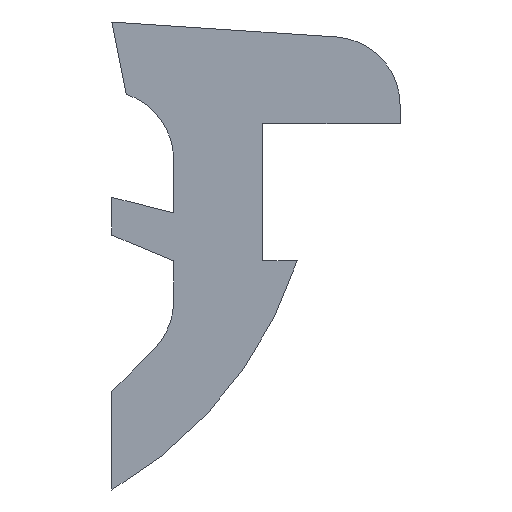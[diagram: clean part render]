
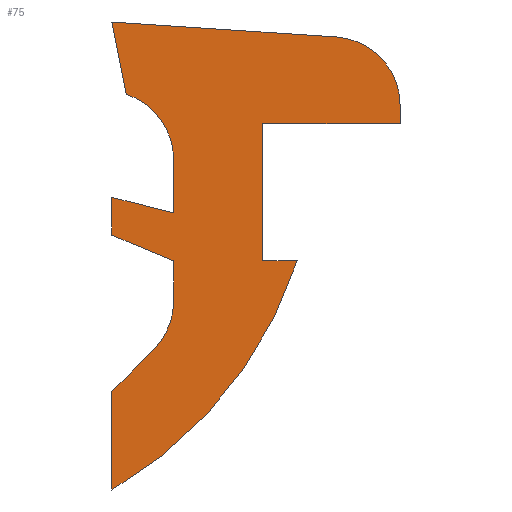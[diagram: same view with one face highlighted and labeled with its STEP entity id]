
A CAD part, front view. The second image highlights one B-rep face of the part: STEP entity #75.
In plain terms, the highlighted planar face has unit normal (0, -1, 0).
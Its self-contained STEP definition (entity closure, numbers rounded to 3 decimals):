
#75=ADVANCED_FACE('',(#146),#147,.T.);
#146=FACE_OUTER_BOUND('',#210,.T.);
#147=PLANE('',#211);
#210=EDGE_LOOP('',(#361,#362,#363,#364,#365,#366,#367,#368,#369,#370,#371,#372,#373,#374,#375,#376,#377));
#211=AXIS2_PLACEMENT_3D('',#378,#379,#380);
#361=ORIENTED_EDGE('',*,*,#432,.T.);
#362=ORIENTED_EDGE('',*,*,#459,.T.);
#363=ORIENTED_EDGE('',*,*,#443,.T.);
#364=ORIENTED_EDGE('',*,*,#424,.T.);
#365=ORIENTED_EDGE('',*,*,#421,.T.);
#366=ORIENTED_EDGE('',*,*,#463,.T.);
#367=ORIENTED_EDGE('',*,*,#428,.T.);
#368=ORIENTED_EDGE('',*,*,#451,.T.);
#369=ORIENTED_EDGE('',*,*,#440,.T.);
#370=ORIENTED_EDGE('',*,*,#446,.T.);
#371=ORIENTED_EDGE('',*,*,#436,.T.);
#372=ORIENTED_EDGE('',*,*,#461,.T.);
#373=ORIENTED_EDGE('',*,*,#453,.T.);
#374=ORIENTED_EDGE('',*,*,#400,.T.);
#375=ORIENTED_EDGE('',*,*,#457,.T.);
#376=ORIENTED_EDGE('',*,*,#464,.T.);
#377=ORIENTED_EDGE('',*,*,#448,.T.);
#378=CARTESIAN_POINT('',(4.6,0.,0.264));
#379=DIRECTION('',(0.0,-1.0,0.0));
#380=DIRECTION('',(1.0,0.0,0.0));
#400=EDGE_CURVE('',#473,#471,#474,.T.);
#421=EDGE_CURVE('',#511,#509,#512,.T.);
#424=EDGE_CURVE('',#515,#511,#516,.T.);
#428=EDGE_CURVE('',#521,#519,#522,.T.);
#432=EDGE_CURVE('',#527,#525,#528,.T.);
#436=EDGE_CURVE('',#533,#531,#534,.T.);
#440=EDGE_CURVE('',#539,#537,#540,.T.);
#443=EDGE_CURVE('',#543,#515,#544,.T.);
#446=EDGE_CURVE('',#537,#533,#547,.T.);
#448=EDGE_CURVE('',#549,#527,#550,.T.);
#451=EDGE_CURVE('',#519,#539,#553,.T.);
#453=EDGE_CURVE('',#555,#473,#556,.T.);
#457=EDGE_CURVE('',#471,#559,#561,.T.);
#459=EDGE_CURVE('',#525,#543,#563,.T.);
#461=EDGE_CURVE('',#531,#555,#565,.T.);
#463=EDGE_CURVE('',#509,#521,#567,.T.);
#464=EDGE_CURVE('',#559,#549,#568,.T.);
#471=VERTEX_POINT('',#576);
#473=VERTEX_POINT('',#579);
#474=LINE('',#580,#581);
#509=VERTEX_POINT('',#629);
#511=VERTEX_POINT('',#632);
#512=LINE('',#633,#634);
#515=VERTEX_POINT('',#638);
#516=CIRCLE('',#639,1.0);
#519=VERTEX_POINT('',#643);
#521=VERTEX_POINT('',#646);
#522=LINE('',#647,#648);
#525=VERTEX_POINT('',#652);
#527=VERTEX_POINT('',#655);
#528=CIRCLE('',#656,1.0);
#531=VERTEX_POINT('',#660);
#533=VERTEX_POINT('',#663);
#534=LINE('',#664,#665);
#537=VERTEX_POINT('',#669);
#539=VERTEX_POINT('',#672);
#540=LINE('',#673,#674);
#543=VERTEX_POINT('',#678);
#544=LINE('',#679,#680);
#547=CIRCLE('',#684,1.0);
#549=VERTEX_POINT('',#686);
#550=LINE('',#687,#688);
#553=LINE('',#692,#693);
#555=VERTEX_POINT('',#695);
#556=CIRCLE('',#696,6.);
#559=VERTEX_POINT('',#700);
#561=LINE('',#703,#704);
#563=LINE('',#706,#707);
#565=LINE('',#709,#710);
#567=LINE('',#712,#713);
#568=LINE('',#714,#715);
#576=CARTESIAN_POINT('',(3.6,0.,-2.));
#579=CARTESIAN_POINT('',(4.1,0.,-2.));
#580=CARTESIAN_POINT('',(4.1,0.,-2.));
#581=VECTOR('',#720,1.0);
#629=CARTESIAN_POINT('',(2.3,0.,-1.3));
#632=CARTESIAN_POINT('',(2.3,0.,-0.523));
#633=CARTESIAN_POINT('',(2.3,0.,-0.523));
#634=VECTOR('',#747,1.0);
#638=CARTESIAN_POINT('',(1.611,0.,0.427));
#639=AXIS2_PLACEMENT_3D('',#749,#750,#751);
#643=CARTESIAN_POINT('',(1.4,0.,-1.625));
#646=CARTESIAN_POINT('',(1.4,0.,-1.075));
#647=CARTESIAN_POINT('',(1.4,0.,-1.075));
#648=VECTOR('',#754,1.0);
#652=CARTESIAN_POINT('',(4.667,0.,1.262));
#655=CARTESIAN_POINT('',(5.6,0.,0.264));
#656=AXIS2_PLACEMENT_3D('',#757,#758,#759);
#660=CARTESIAN_POINT('',(1.4,0.,-3.9));
#663=CARTESIAN_POINT('',(2.007,0.,-3.293));
#664=CARTESIAN_POINT('',(2.007,0.,-3.293));
#665=VECTOR('',#762,1.0);
#669=CARTESIAN_POINT('',(2.3,0.,-2.586));
#672=CARTESIAN_POINT('',(2.3,0.,-2.));
#673=CARTESIAN_POINT('',(2.3,0.,-2.));
#674=VECTOR('',#765,1.0);
#678=CARTESIAN_POINT('',(1.4,0.,1.48));
#679=CARTESIAN_POINT('',(1.4,0.,1.48));
#680=VECTOR('',#767,1.0);
#684=AXIS2_PLACEMENT_3D('',#769,#770,#771);
#686=CARTESIAN_POINT('',(5.6,0.,0.));
#687=CARTESIAN_POINT('',(5.6,0.,0.));
#688=VECTOR('',#772,1.0);
#692=CARTESIAN_POINT('',(1.4,0.,-1.625));
#693=VECTOR('',#774,1.0);
#695=CARTESIAN_POINT('',(1.4,0.,-5.338));
#696=AXIS2_PLACEMENT_3D('',#775,#776,#777);
#700=CARTESIAN_POINT('',(3.6,0.,0.));
#703=CARTESIAN_POINT('',(3.6,0.,-2.));
#704=VECTOR('',#780,1.0);
#706=CARTESIAN_POINT('',(4.667,0.,1.262));
#707=VECTOR('',#781,1.0);
#709=CARTESIAN_POINT('',(1.4,0.,-3.9));
#710=VECTOR('',#782,1.0);
#712=CARTESIAN_POINT('',(2.3,0.,-1.3));
#713=VECTOR('',#783,1.0);
#714=CARTESIAN_POINT('',(3.6,0.,0.));
#715=VECTOR('',#784,1.0);
#720=DIRECTION('',(-1.0,0.0,0.0));
#747=DIRECTION('',(0.0,0.0,-1.0));
#749=CARTESIAN_POINT('',(1.3,0.,-0.523));
#750=DIRECTION('',(0.0,1.0,0.0));
#751=DIRECTION('',(-1.0,0.0,0.0));
#754=DIRECTION('',(0.0,0.0,-1.0));
#757=CARTESIAN_POINT('',(4.6,0.,0.264));
#758=DIRECTION('',(0.0,-1.0,0.0));
#759=DIRECTION('',(1.0,0.0,0.0));
#762=DIRECTION('',(-0.707,0.0,-0.707));
#765=DIRECTION('',(0.0,0.0,-1.0));
#767=DIRECTION('',(0.196,0.0,-0.981));
#769=CARTESIAN_POINT('',(1.3,0.,-2.586));
#770=DIRECTION('',(0.0,1.0,0.0));
#771=DIRECTION('',(-1.0,0.0,0.0));
#772=DIRECTION('',(0.0,0.0,1.0));
#774=DIRECTION('',(0.923,0.0,-0.385));
#775=CARTESIAN_POINT('',(-1.606,0.,-0.145));
#776=DIRECTION('',(0.0,-1.0,0.0));
#777=DIRECTION('',(1.0,0.0,0.0));
#780=DIRECTION('',(0.0,0.0,1.0));
#781=DIRECTION('',(-0.998,0.0,0.067));
#782=DIRECTION('',(0.,0.0,-1.0));
#783=DIRECTION('',(-0.97,0.0,0.243));
#784=DIRECTION('',(1.0,0.0,0.0));
